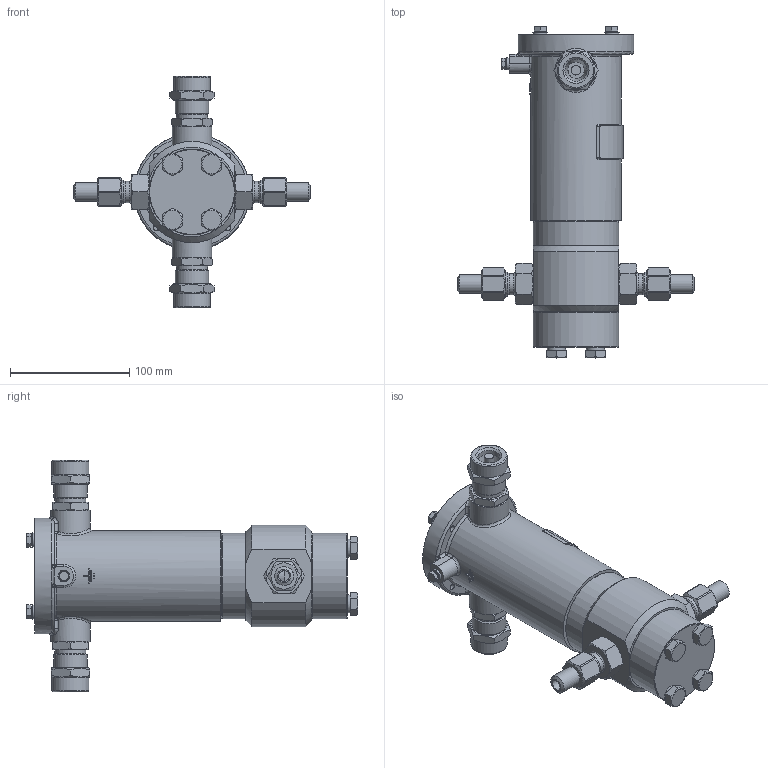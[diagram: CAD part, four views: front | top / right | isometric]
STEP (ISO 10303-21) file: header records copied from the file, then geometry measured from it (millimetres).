
FILE_DESCRIPTION(('STEP AP203'), '1');
FILE_NAME('ÑÅÍÑ-ÏÐ DN10PN250-ÍÎ-G1_2-1.stp', '2018-10-23T08:46:24', ('Îðëîâ Å.Â.'), ('ÎÎÎ ÍÏÏ Ñåíñîð'), 'ASCON STEP Converter 1.3', 'Kompas 3D', '');
FILE_SCHEMA(('CONFIG_CONTROL_DESIGN','SUPPORT_RESOURCE_SCHEMA'));
Length unit declared in the file: millimetre
Products named in the file (1): 1
Bounding box: 198.56 x 278.1 x 194 mm (x, y, z)
Volume: 853706.7 mm3; surface area: 238340.2 mm2
Topology: 3 solids, 25 shells, 1906 faces, 5016 edges, 3264 vertices
Faces by surface type: cylinder 960, plane 707, cone 164, torus 30, bspline 29, extrusion 16
Full cylindrical faces by diameter (mm): 3.3 x2, 3.5 x2, 4.134 x1, 4.917 x4, 5 x1, 6 x7, 6.1 x1, 6.5 x4, 8 x4, 8.376 x4, 9 x3, 10 x5, 11 x6, 12 x4, 13 x2, 14 x2, 15 x1, 15.8 x2, 16 x2, 17 x2, 17.8 x2, 18 x2, 18.376 x2, 18.631 x4, 18.632 x2, 20 x5, 20.5 x2, 21.5 x1, 22 x2, 22.376 x2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
Entity records: 72287 total; most frequent: CARTESIAN_POINT 23987, DIRECTION 10512, ORIENTED_EDGE 10004, EDGE_CURVE 5002, AXIS2_PLACEMENT_3D 4056, VERTEX_POINT 3264, VECTOR 2400, LINE 2384
